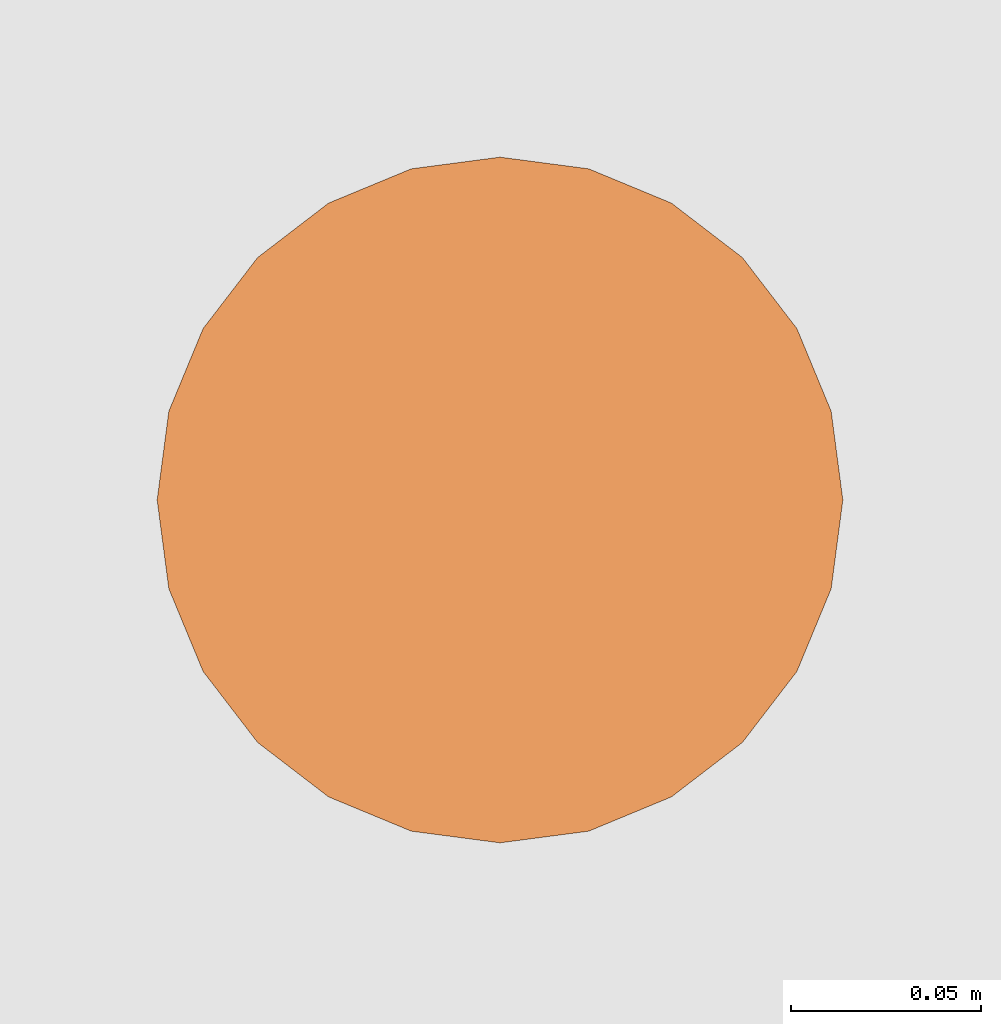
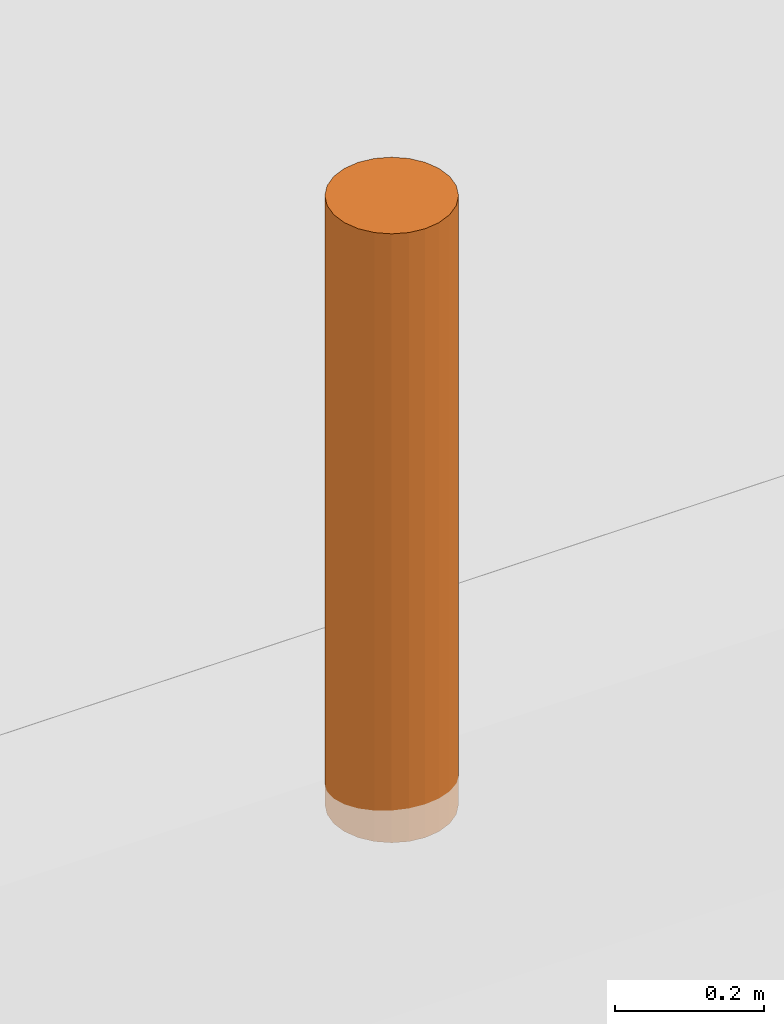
# One storey, part 234 of 246: 1 proxy.
"""IFC2X3 building model written with IfcOpenShell, lengths in millimetres."""

from ifc_helpers import new_model, entity, si_unit, converted_unit, derived_unit, money_unit, direction, frame, origin_with_axes, place, context, subcontext, project, spatial, faceted_brep, material, type_object, element, save


model = new_model("IFC2X3")

# Units and contexts
model_context = context("Model", 3, precision=0.01, world=origin_with_axes(), true_north=direction((0.0, 1.0)))
body_context = subcontext(model_context, "Body", "Model", "MODEL_VIEW")
ifc_project = project(units=[si_unit("LENGTHUNIT", "METRE", prefix="MILLI"), si_unit("AREAUNIT", "SQUARE_METRE"), si_unit("VOLUMEUNIT", "CUBIC_METRE"), converted_unit("PLANEANGLEUNIT", "DEGREE", entity("IfcPlaneAngleMeasure", 0.0174532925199), si_unit("PLANEANGLEUNIT", "RADIAN"), dimensions=[0, 0, 0, 0, 0, 0, 0]), si_unit("SOLIDANGLEUNIT", "STERADIAN"), money_unit("EUR"), converted_unit("TIMEUNIT", "Year", entity("IfcTimeMeasure", 31556926.0), si_unit("TIMEUNIT", "SECOND"), dimensions=[0, 0, 1, 0, 0, 0, 0]), si_unit("MASSUNIT", "GRAM", prefix="KILO"), si_unit("THERMODYNAMICTEMPERATUREUNIT", "DEGREE_CELSIUS"), si_unit("LUMINOUSINTENSITYUNIT", "LUMEN"), si_unit("ENERGYUNIT", "JOULE", prefix="MEGA"), derived_unit("THERMALCONDUCTANCEUNIT", [(si_unit("POWERUNIT", "WATT"), 1), (si_unit("LENGTHUNIT", "METRE"), -1), (si_unit("THERMODYNAMICTEMPERATUREUNIT", "KELVIN"), -1)]), derived_unit("SPECIFICHEATCAPACITYUNIT", [(si_unit("ENERGYUNIT", "JOULE"), 1), (si_unit("MASSUNIT", "GRAM", prefix="KILO"), -1), (si_unit("THERMODYNAMICTEMPERATUREUNIT", "KELVIN"), -1)]), derived_unit("MASSDENSITYUNIT", [(si_unit("MASSUNIT", "GRAM", prefix="KILO"), 1), (si_unit("VOLUMEUNIT", "CUBIC_METRE"), -1)])], contexts=[model_context])

# Site, building, storey
site_placement = place(None, origin_with_axes())
site = spatial("IfcSite", under=ifc_project, at=site_placement, Name="L.Koidula tn 11b", CompositionType="ELEMENT")
building_placement = place(site_placement, origin_with_axes())
building = spatial("IfcBuilding", under=site, at=building_placement, Name="Rakvere Riigigümnaasium", CompositionType="ELEMENT")
storey_placement = place(building_placement, origin_with_axes())
storey = spatial("IfcBuildingStorey", under=building, at=storey_placement, Name="1.korrus 0,00", CompositionType="ELEMENT", Elevation=0.0)

# Proxy
ifc_material = material(Name="Alumiinium (RAL 7026)")
building_element_proxy_type = type_object("IfcBuildingElementProxyType", Name="Alumiinium (RAL 7026) D180", PredefinedType="NOTDEFINED")
proxy_placement = place(storey_placement, frame((67886.3233926, 1486.45341722, -184.071413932), z_axis=(0.0, 0.0, 1.0), x_axis=(1.0, 0.0, 0.0)))
element("IfcBuildingElementProxy", 1, at=proxy_placement, inside=storey, type_object=building_element_proxy_type, material=ifc_material, Name="Pollar valgusti", context=body_context, shape_type="Brep", body=[
    faceted_brep([(-90.0, 0.0, 1000.0), (-90.0, 0.0, 0.0), (-86.933324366, -23.2937140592, 0.0), (-86.933324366, -23.2937140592, 1000.0), (-86.933324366, 23.2937140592, 1000.0), (-86.933324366, 23.2937140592, 0.0), (-77.9422863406, 45.0, 0.0), (-63.6396103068, 63.6396103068, 0.0), (-45.0, 77.9422863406, 0.0), (-23.2937140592, 86.933324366, 0.0), (0.0, 90.0, 0.0), (23.2937140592, 86.933324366, 0.0), (45.0, 77.9422863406, 0.0), (63.6396103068, 63.6396103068, 0.0), (77.9422863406, 45.0, 0.0), (86.933324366, 23.2937140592, 0.0), (90.0, 0.0, 0.0), (86.933324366, -23.2937140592, 0.0), (77.9422863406, -45.0, 0.0), (63.6396103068, -63.6396103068, 0.0), (45.0, -77.9422863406, 0.0), (23.2937140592, -86.933324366, 0.0), (0.0, -90.0, 0.0), (-23.2937140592, -86.933324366, 0.0), (-45.0, -77.9422863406, 0.0), (-63.6396103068, -63.6396103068, 0.0), (-77.9422863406, -45.0, 0.0), (-77.9422863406, -45.0, 1000.0), (-63.6396103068, -63.6396103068, 1000.0), (-45.0, -77.9422863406, 1000.0), (-23.2937140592, -86.933324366, 1000.0), (0.0, -90.0, 1000.0), (23.2937140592, -86.933324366, 1000.0), (45.0, -77.9422863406, 1000.0), (63.6396103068, -63.6396103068, 1000.0), (77.9422863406, -45.0, 1000.0), (86.933324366, -23.2937140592, 1000.0), (90.0, 0.0, 1000.0), (86.933324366, 23.2937140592, 1000.0), (77.9422863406, 45.0, 1000.0), (63.6396103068, 63.6396103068, 1000.0), (45.0, 77.9422863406, 1000.0), (23.2937140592, 86.933324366, 1000.0), (0.0, 90.0, 1000.0), (-23.2937140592, 86.933324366, 1000.0), (-45.0, 77.9422863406, 1000.0), (-63.6396103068, 63.6396103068, 1000.0), (-77.9422863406, 45.0, 1000.0)], [[[0, 1, 2, 3]], [[4, 5, 1, 0]], [[2, 1, 5, 6, 7, 8, 9, 10, 11, 12, 13, 14, 15, 16, 17, 18, 19, 20, 21, 22, 23, 24, 25, 26]], [[3, 2, 26, 27]], [[4, 0, 3, 27, 28, 29, 30, 31, 32, 33, 34, 35, 36, 37, 38, 39, 40, 41, 42, 43, 44, 45, 46, 47]], [[47, 6, 5, 4]], [[46, 7, 6, 47]], [[45, 8, 7, 46]], [[44, 9, 8, 45]], [[43, 10, 9, 44]], [[42, 11, 10, 43]], [[41, 12, 11, 42]], [[40, 13, 12, 41]], [[39, 14, 13, 40]], [[38, 15, 14, 39]], [[37, 16, 15, 38]], [[36, 17, 16, 37]], [[35, 18, 17, 36]], [[34, 19, 18, 35]], [[33, 20, 19, 34]], [[32, 21, 20, 33]], [[31, 22, 21, 32]], [[30, 23, 22, 31]], [[29, 24, 23, 30]], [[28, 25, 24, 29]], [[27, 26, 25, 28]]]),
])

save(model, "model.ifc")
